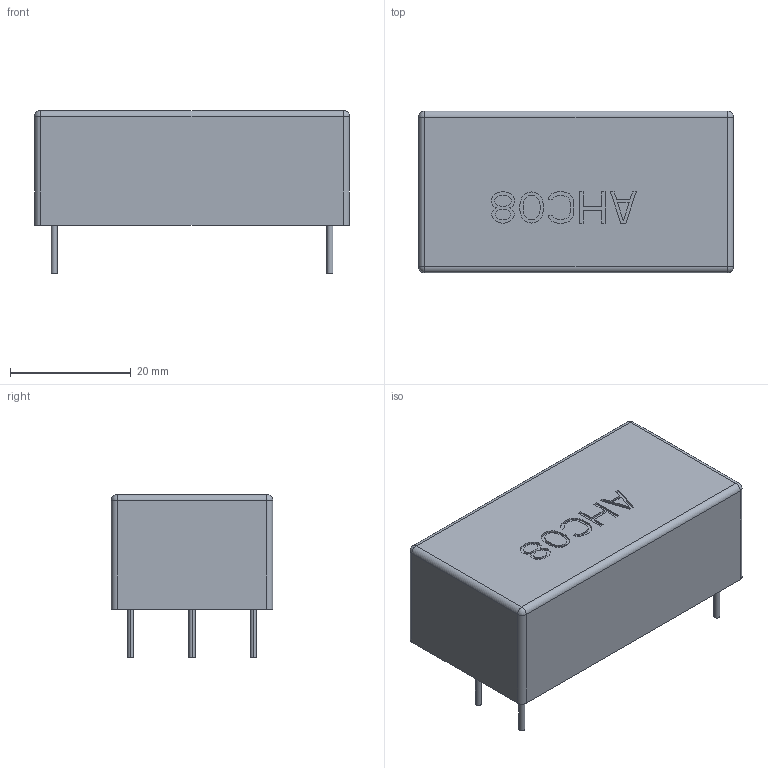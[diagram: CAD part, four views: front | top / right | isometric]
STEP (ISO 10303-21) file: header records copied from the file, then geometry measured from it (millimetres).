
FILE_DESCRIPTION((''),'2;1');
FILE_NAME('AHC08','2016-02-02T',('arch'),(''),'PRO/ENGINEER BY PARAMETRIC TECHNOLOGY CORPORATION, 2008380','PRO/ENGINEER BY PARAMETRIC TECHNOLOGY CORPORATION, 2008380','');
FILE_SCHEMA(('AUTOMOTIVE_DESIGN { 1 2 10303 214 0 1 1 1 }'));
Length unit declared in the file: millimetre
Products named in the file (1): AHC08
Bounding box: 52.2 x 26.8 x 27 mm (x, y, z)
Volume: 26544.2 mm3; surface area: 5839 mm2
Topology: 1 solids, 1 shells, 212 faces, 579 edges, 382 vertices
Faces by surface type: plane 192, cylinder 16, sphere 4
Entity records: 6657 total; most frequent: CARTESIAN_POINT 1174, ORIENTED_EDGE 1158, DIRECTION 1035, EDGE_CURVE 579, VECTOR 547, LINE 547, VERTEX_POINT 382, AXIS2_PLACEMENT_3D 244
